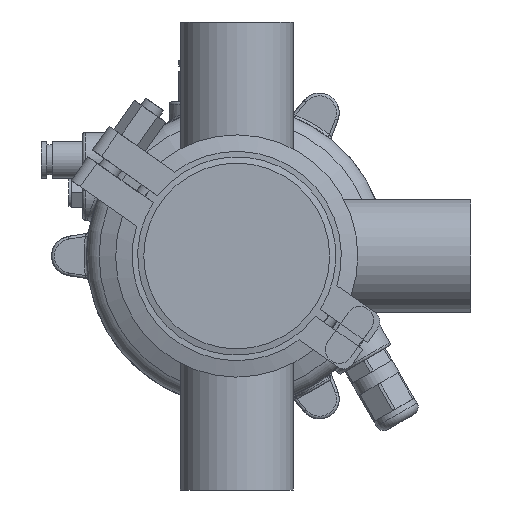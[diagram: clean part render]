
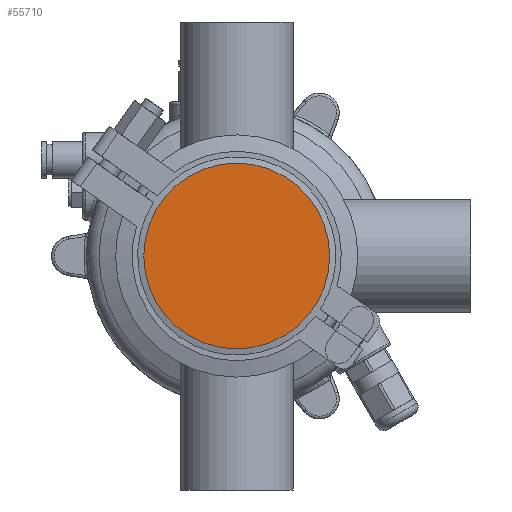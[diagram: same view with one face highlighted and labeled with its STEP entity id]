
A CAD part, front view. The second image highlights one B-rep face of the part: STEP entity #55710.
In plain terms, the highlighted planar face has unit normal (0, -1, 0).
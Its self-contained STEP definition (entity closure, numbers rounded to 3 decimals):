
#461 = FACE_OUTER_BOUND ( 'NONE', #16970, .T. ) ;
#4685 = AXIS2_PLACEMENT_3D ( 'NONE', #33081, #59853, #18161 ) ;
#16970 = EDGE_LOOP ( 'NONE', ( #34282 ) ) ;
#18161 = DIRECTION ( 'NONE',  ( 0., 0., -1. ) ) ;
#21330 = DIRECTION ( 'NONE',  ( 0., 1., 0. ) ) ;
#27287 = PLANE ( 'NONE',  #4685 ) ;
#31388 = AXIS2_PLACEMENT_3D ( 'NONE', #40751, #21330, #35299 ) ;
#33081 = CARTESIAN_POINT ( 'NONE',  ( -33.75, 0., 0. ) ) ;
#34282 = ORIENTED_EDGE ( 'NONE', *, *, #47431, .F. ) ;
#35299 = DIRECTION ( 'NONE',  ( 0., 0., 1. ) ) ;
#40751 = CARTESIAN_POINT ( 'NONE',  ( 0., 0., 0. ) ) ;
#47431 = EDGE_CURVE ( 'NONE', #47789, #47789, #57661, .T. ) ;
#47789 = VERTEX_POINT ( 'NONE', #57270 ) ;
#55710 = ADVANCED_FACE ( 'NONE', ( #461 ), #27287, .T. ) ;
#57270 = CARTESIAN_POINT ( 'NONE',  ( 0., 0., 33.75 ) ) ;
#57661 = CIRCLE ( 'NONE', #31388, 33.75 ) ;
#59853 = DIRECTION ( 'NONE',  ( 0., -1., 0. ) ) ;
